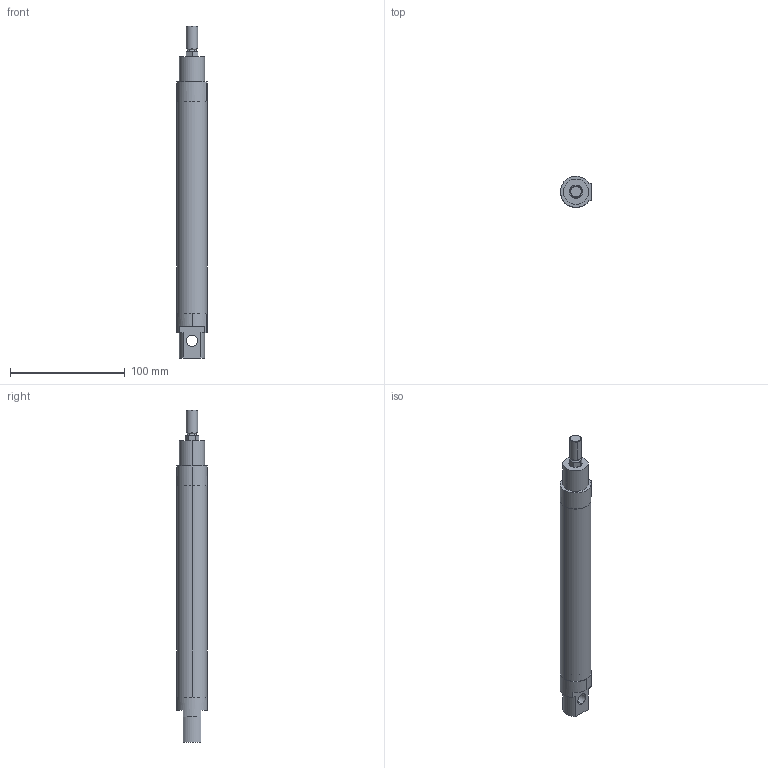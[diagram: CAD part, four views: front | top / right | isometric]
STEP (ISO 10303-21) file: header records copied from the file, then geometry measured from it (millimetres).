
FILE_DESCRIPTION (( 'STEP AP203' ), '1' );
FILE_NAME ('MAAT-S-25X150-CYLINDER.STEP', '2017-01-26T11:03:11', ( 'user' ), ( '' ), 'SwSTEP 2.0', 'SolidWorks 2013', '' );
FILE_SCHEMA (( 'CONFIG_CONTROL_DESIGN' ));
Length unit declared in the file: millimetre
Products named in the file (5): MAAT-S  25 ARKA KAPAK ; MAAT-S  25 烰 KAPAK  ; MAAT-S  25X150 BORU; MAAT-S  25X150 M尳; MAAT-S-25X150-CYLINDER
Assembly tree (4 placements, depth 2):
  MAAT-S-25X150-CYLINDER
    MAAT-S  25 ARKA KAPAK 
    MAAT-S  25 烰 KAPAK  
    MAAT-S  25X150 BORU
    MAAT-S  25X150 M尳
Bounding box: 27 x 27 x 289.2 mm (x, y, z)
Volume: 72884.4 mm3; surface area: 51959.1 mm2
Topology: 4 solids, 4 shells, 97 faces, 221 edges, 139 vertices
Faces by surface type: plane 48, cylinder 36, cone 13
Entity records: 3383 total; most frequent: CARTESIAN_POINT 604, DIRECTION 508, ORIENTED_EDGE 442, EDGE_CURVE 221, AXIS2_PLACEMENT_3D 193, VERTEX_POINT 139, VECTOR 122, LINE 122
